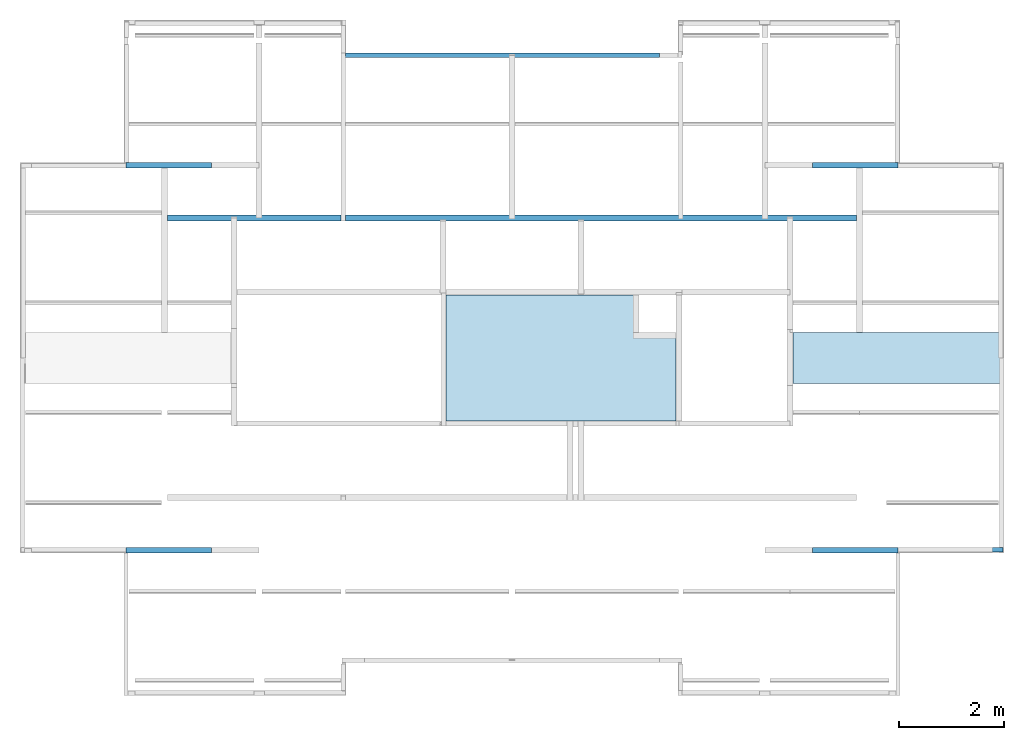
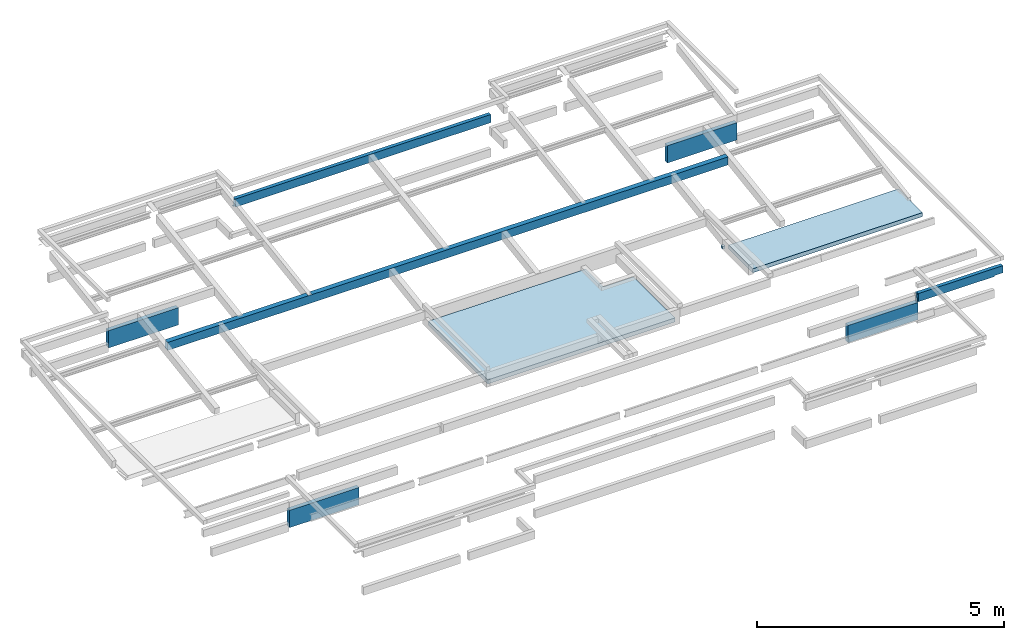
# One storey, part 8 of 9: 4 walls, 3 beams, 2 slabs.
"""IFC4 building model written with IfcOpenShell, lengths in metres."""

from ifc_helpers import new_model, entity, si_unit, converted_unit, derived_unit, direction, frame, origin, place, context, subcontext, project, spatial, indexed_curve, outline, extrude, polygons, source, transform, mapped, material, type_object, type_shapes, element, save


model = new_model("IFC4")

# Units and contexts
model_context = context("Model", 3, precision=1e-05, world=origin(), true_north=direction((6.123031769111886e-17, 1.0)))
body_context = subcontext(model_context, "Body", "Model", "MODEL_VIEW")
ifc_project = project(units=[si_unit("LENGTHUNIT", "METRE"), si_unit("AREAUNIT", "SQUARE_METRE"), si_unit("VOLUMEUNIT", "CUBIC_METRE"), converted_unit("PLANEANGLEUNIT", "DEGREE", entity("IfcRatioMeasure", 0.017453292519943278), si_unit("PLANEANGLEUNIT", "RADIAN"), dimensions=[0, 0, 0, 0, 0, 0, 0]), si_unit("MASSUNIT", "GRAM", prefix="KILO"), derived_unit("MASSDENSITYUNIT", [(si_unit("MASSUNIT", "GRAM", prefix="KILO"), 1), (si_unit("LENGTHUNIT", "METRE"), -3)]), derived_unit("IONCONCENTRATIONUNIT", [(si_unit("MASSUNIT", "GRAM", prefix="KILO"), 1), (si_unit("LENGTHUNIT", "METRE"), -3)]), derived_unit("MOMENTOFINERTIAUNIT", [(si_unit("LENGTHUNIT", "METRE"), 4)]), si_unit("TIMEUNIT", "SECOND"), si_unit("FREQUENCYUNIT", "HERTZ"), si_unit("THERMODYNAMICTEMPERATUREUNIT", "DEGREE_CELSIUS"), derived_unit("THERMALTRANSMITTANCEUNIT", [(si_unit("MASSUNIT", "GRAM", prefix="KILO"), 1), (si_unit("THERMODYNAMICTEMPERATUREUNIT", "KELVIN"), -1), (si_unit("TIMEUNIT", "SECOND"), -3)]), derived_unit("THERMALCONDUCTANCEUNIT", [(si_unit("MASSUNIT", "GRAM", prefix="KILO"), 1), (si_unit("THERMODYNAMICTEMPERATUREUNIT", "KELVIN"), -1), (si_unit("TIMEUNIT", "SECOND"), -3), (si_unit("LENGTHUNIT", "METRE"), 1)]), derived_unit("VOLUMETRICFLOWRATEUNIT", [(si_unit("LENGTHUNIT", "METRE"), 3), (si_unit("TIMEUNIT", "SECOND"), -1)]), derived_unit("MASSFLOWRATEUNIT", [(si_unit("MASSUNIT", "GRAM", prefix="KILO"), 1), (si_unit("TIMEUNIT", "SECOND"), -1)]), derived_unit("ROTATIONALFREQUENCYUNIT", [(si_unit("TIMEUNIT", "SECOND"), -1)]), si_unit("ELECTRICCURRENTUNIT", "AMPERE"), si_unit("ELECTRICVOLTAGEUNIT", "VOLT"), si_unit("POWERUNIT", "WATT"), si_unit("FORCEUNIT", "NEWTON", prefix="KILO"), si_unit("ILLUMINANCEUNIT", "LUX"), si_unit("LUMINOUSFLUXUNIT", "LUMEN"), si_unit("LUMINOUSINTENSITYUNIT", "CANDELA"), derived_unit("USERDEFINED", [(si_unit("MASSUNIT", "GRAM", prefix="KILO"), -1), (si_unit("LENGTHUNIT", "METRE"), -2), (si_unit("TIMEUNIT", "SECOND"), 3), (si_unit("LUMINOUSFLUXUNIT", "LUMEN"), 1)]), derived_unit("USERDEFINED", [(si_unit("MASSUNIT", "GRAM", prefix="KILO"), 1), (si_unit("TIMEUNIT", "SECOND"), -3), (si_unit("LENGTHUNIT", "METRE"), 3), (si_unit("ELECTRICCURRENTUNIT", "AMPERE"), -2)]), derived_unit("SOUNDPOWERUNIT", [(si_unit("MASSUNIT", "GRAM", prefix="KILO"), 1), (si_unit("TIMEUNIT", "SECOND"), -3), (si_unit("LENGTHUNIT", "METRE"), 2)]), derived_unit("SOUNDPRESSUREUNIT", [(si_unit("MASSUNIT", "GRAM", prefix="KILO"), 1), (si_unit("LENGTHUNIT", "METRE"), -1), (si_unit("TIMEUNIT", "SECOND"), -2)]), derived_unit("LINEARVELOCITYUNIT", [(si_unit("LENGTHUNIT", "METRE"), 1), (si_unit("TIMEUNIT", "SECOND"), -1)]), si_unit("PRESSUREUNIT", "PASCAL"), derived_unit("USERDEFINED", [(si_unit("MASSUNIT", "GRAM", prefix="KILO"), 1), (si_unit("LENGTHUNIT", "METRE"), -2), (si_unit("TIMEUNIT", "SECOND"), -2)]), derived_unit("LINEARFORCEUNIT", [(si_unit("MASSUNIT", "GRAM", prefix="KILO"), 1), (si_unit("TIMEUNIT", "SECOND"), -2)]), derived_unit("PLANARFORCEUNIT", [(si_unit("MASSUNIT", "GRAM", prefix="KILO"), 1), (si_unit("LENGTHUNIT", "METRE"), -1), (si_unit("TIMEUNIT", "SECOND"), -2)]), derived_unit("SPECIFICHEATCAPACITYUNIT", [(si_unit("THERMODYNAMICTEMPERATUREUNIT", "KELVIN"), -1), (si_unit("LENGTHUNIT", "METRE"), 2), (si_unit("TIMEUNIT", "SECOND"), -2)]), derived_unit("HEATINGVALUEUNIT", [(si_unit("LENGTHUNIT", "METRE"), 2), (si_unit("TIMEUNIT", "SECOND"), -2)]), derived_unit("VAPORPERMEABILITYUNIT", [(si_unit("LENGTHUNIT", "METRE"), -1), (si_unit("TIMEUNIT", "SECOND"), 1)]), derived_unit("DYNAMICVISCOSITYUNIT", [(si_unit("MASSUNIT", "GRAM", prefix="KILO"), 1), (si_unit("TIMEUNIT", "SECOND"), -1), (si_unit("LENGTHUNIT", "METRE"), -1)]), derived_unit("THERMALEXPANSIONCOEFFICIENTUNIT", [(si_unit("THERMODYNAMICTEMPERATUREUNIT", "KELVIN"), -1)]), derived_unit("MODULUSOFELASTICITYUNIT", [(si_unit("MASSUNIT", "GRAM", prefix="KILO"), 1), (si_unit("LENGTHUNIT", "METRE"), -1), (si_unit("TIMEUNIT", "SECOND"), -2)]), derived_unit("ISOTHERMALMOISTURECAPACITYUNIT", [(si_unit("LENGTHUNIT", "METRE"), 3), (si_unit("MASSUNIT", "GRAM", prefix="KILO"), -1)]), derived_unit("MOISTUREDIFFUSIVITYUNIT", [(si_unit("TIMEUNIT", "SECOND"), -1), (si_unit("LENGTHUNIT", "METRE"), 2)])], contexts=[model_context])

# Site, building, storey
site_placement = place(None, origin())
site = spatial("IfcSite", under=ifc_project, at=site_placement, Name="Default", CompositionType="ELEMENT")
building_placement = place(site_placement, origin())
building = spatial("IfcBuilding", under=site, at=building_placement, Name="Las nubes", CompositionType="ELEMENT")
storey_placement = place(building_placement, frame((0.0, 0.0, 14.100000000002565)))
storey = spatial("IfcBuildingStorey", under=building, at=storey_placement, Name="CUBIERTA", CompositionType="ELEMENT", Elevation=14.100000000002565)

# Beams
ifc_material_1 = material(Name="Concrete, Cast In Situ", Category="Materials")
beam_type_1 = type_object("IfcBeamType", Name="M_Concrete-Rectangular Beam:(0.115x0.20)", PredefinedType="BEAM", material=ifc_material_1)
shared_shape_1 = source(origin(), body_context, "Body", "Tessellation", [
    polygons([(13.109997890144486, 0.11500000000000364, 0.2), (13.109997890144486, -5.414335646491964e-16, 0.19999999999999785), (13.109997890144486, -5.414335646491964e-16, 0.0), (13.109997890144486, 0.11500000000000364, 0.0), (0.0, 0.11500000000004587, 0.2), (0.0, 0.11500000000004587, 0.0), (0.0, 4.2231818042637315e-14, 0.0), (0.0, 4.2231818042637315e-14, 0.19999999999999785), (11.424998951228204, 0.11500000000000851, 0.2), (11.309998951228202, 0.11500000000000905, 0.2), (9.809998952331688, 0.11500000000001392, 0.2), (9.724998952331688, 0.11500000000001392, 0.2), (6.614998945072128, 0.11500000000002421, 0.2), (6.494998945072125, 0.11500000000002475, 0.2), (3.384998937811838, 0.11500000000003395, 0.19999999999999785), (3.384998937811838, 0.0017311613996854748, 0.2), (3.2999989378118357, 0.0017311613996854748, 0.2), (3.2999989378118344, 0.11500000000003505, 0.19999999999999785), (6.494998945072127, 2.1115909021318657e-14, 0.0), (6.614998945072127, 2.1115909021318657e-14, 0.0), (6.494998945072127, 0.11500000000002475, 0.0), (6.614998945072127, 0.11500000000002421, 0.0), (3.2999989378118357, 0.11500000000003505, 0.014937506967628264), (3.384998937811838, 0.11500000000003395, 0.014937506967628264), (3.384998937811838, 0.031372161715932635, 0.0023933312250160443), (3.2999989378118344, 0.031372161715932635, 0.0023933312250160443)], [[[1, 2, 3, 4]], [[5, 6, 7, 8]], [[2, 1, 9, 10, 11, 12, 13, 14, 15, 16, 17, 18, 5, 8]], [[3, 2, 8, 7, 19, 20]], [[4, 3, 20, 19, 7, 6, 21, 22]], [[1, 4, 22, 21, 6, 5, 18, 23, 24, 15, 14, 13, 12, 11, 10, 9]], [[25, 26, 17, 16]], [[17, 26, 23, 18]], [[26, 25, 24, 23]], [[25, 16, 15, 24]]], closed=True),
])
type_shapes(beam_type_1, [shared_shape_1])
beam_1_placement = place(storey_placement, frame((2.7675010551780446, -3.8250000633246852, 0.27619999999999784)))
element("IfcBeam", 1, at=beam_1_placement, inside=storey, type_object=beam_type_1, material=ifc_material_1, Name="M_Concrete-Rectangular Beam:(0.115x0.20)", ObjectType="M_Concrete-Rectangular Beam:(0.115x0.20)", PredefinedType="BEAM", context=body_context, shape_type="MappedRepresentation", body=[
    mapped(shared_shape_1, transform((0.0, 0.0, 0.0), scale=1.0)),
])
beam_type_2 = type_object("IfcBeamType", Name="M_Concrete-Rectangular Beam:(0.085x0.20)", PredefinedType="BEAM", material=ifc_material_1)
shared_shape_2 = source(origin(), body_context, "Body", "Tessellation", [
    polygons([(0.02749999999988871, 0.08500000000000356, 0.2), (0.027499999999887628, 0.02683335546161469, 0.2), (-1.0828671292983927e-15, 0.026833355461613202, 0.2), (-1.0828671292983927e-15, 1.353583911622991e-16, 0.2), (6.002500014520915, 7.850786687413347e-15, 0.2), (6.002500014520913, 0.08500000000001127, 0.2), (-1.0828671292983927e-15, 0.08500000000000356, 0.006487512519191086), (0.027499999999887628, 0.08500000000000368, 0.006487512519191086), (6.002500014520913, 0.08500000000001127, -2.1657342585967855e-15), (-1.0828671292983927e-15, 0.08500000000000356, -2.1657342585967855e-15), (0.02749999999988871, 0.041749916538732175, -2.1657342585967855e-15), (-1.0828671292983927e-15, 0.04174991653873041, -2.1657342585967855e-15), (6.002500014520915, 7.850786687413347e-15, -2.1657342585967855e-15), (0.02749999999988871, 1.353583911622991e-16, -2.1657342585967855e-15), (0.027499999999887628, 1.353583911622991e-16, 0.19597499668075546), (-1.0828671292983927e-15, 1.353583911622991e-16, 0.19597499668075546)], [[[1, 2, 3, 4, 5, 6]], [[7, 8, 1, 6, 9, 10]], [[11, 12, 10, 9, 13, 14]], [[15, 14, 13, 5, 4, 16]], [[2, 15, 16, 3]], [[11, 8, 7, 12]], [[8, 11, 14, 15, 2, 1]], [[7, 10, 12]], [[4, 3, 16]], [[6, 5, 13, 9]]], closed=True),
])
type_shapes(beam_type_2, [shared_shape_2])
beam_2_placement = place(storey_placement, frame((6.124999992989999, -0.71000002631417, 0.7473999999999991)))
element("IfcBeam", 2, at=beam_2_placement, inside=storey, type_object=beam_type_2, material=ifc_material_1, Name="M_Concrete-Rectangular Beam:(0.085x0.20)", ObjectType="M_Concrete-Rectangular Beam:(0.085x0.20)", PredefinedType="BEAM", context=body_context, shape_type="MappedRepresentation", body=[
    mapped(shared_shape_2, transform((0.0, 0.0, 0.0), scale=1.0)),
])
beam_type_3 = type_object("IfcBeamType", Name="M_Concrete-Rectangular Beam:(0.085x0.20)", PredefinedType="BEAM", material=ifc_material_1)
shared_shape_3 = source(origin(), body_context, "Body", "Tessellation", [
    polygons([(2.002499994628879, 0.08500511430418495, 0.19999999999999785), (0.0, 0.08500511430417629, 0.19999999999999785), (0.0, 0.041532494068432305, 0.2), (0.027499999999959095, 0.041532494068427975, 0.2), (0.027499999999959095, 5.114304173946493e-06, 0.2), (2.002499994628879, 5.114304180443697e-06, 0.2), (2.002499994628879, 0.08500511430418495, 0.021700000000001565), (1.8024999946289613, 0.08500511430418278, 0.021700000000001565), (1.8024999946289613, 0.08500511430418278, 0.0), (0.0, 0.08500511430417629, 0.0), (0.0, 5.114304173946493e-06, 0.0), (1.8024999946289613, 5.114304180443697e-06, 0.0), (0.027499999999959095, 5.114304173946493e-06, 0.010586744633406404), (0.0, 5.114304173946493e-06, 0.010586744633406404), (1.8024999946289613, 3.4095361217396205e-06, 0.021700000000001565), (2.002499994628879, 5.114304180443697e-06, 0.021700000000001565), (0.027499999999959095, 0.01283190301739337, 0.008662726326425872), (0.0, 0.012831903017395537, 0.008662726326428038)], [[[1, 2, 3, 4, 5, 6]], [[2, 1, 7, 8, 9, 10]], [[11, 10, 9, 12]], [[6, 5, 13, 14, 11, 12, 15, 16]], [[13, 17, 18, 14]], [[17, 13, 5, 4]], [[18, 17, 4, 3]], [[2, 10, 11, 14, 18, 3]], [[8, 15, 12, 9]], [[1, 6, 16, 7]], [[15, 8, 7, 16]]], closed=True),
])
type_shapes(beam_type_3, [shared_shape_3])
beam_3_placement = place(storey_placement, frame((16.670000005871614, -10.125000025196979, 0.4282999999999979)))
element("IfcBeam", 3, at=beam_3_placement, inside=storey, type_object=beam_type_3, material=ifc_material_1, Name="M_Concrete-Rectangular Beam:(0.085x0.20)", ObjectType="M_Concrete-Rectangular Beam:(0.085x0.20)", PredefinedType="BEAM", context=body_context, shape_type="MappedRepresentation", body=[
    mapped(shared_shape_3, transform((0.0, 0.0, 0.0), scale=1.0)),
])

# Slabs
ifc_material_2 = material(Name="Concrete - Cast-in-Place Concrete - 28 MPa SLAB", Category="Materials")
slab_type = type_object("IfcSlabType", Name="Floor:PLACA ESTRUCTURAL 0.10", PredefinedType="FLOOR", material=ifc_material_2)
slab_1_placement = place(storey_placement, origin())
element("IfcSlab", 4, at=slab_1_placement, inside=storey, type_object=slab_type, material=ifc_material_2, Name="Floor:PLACA ESTRUCTURAL 0.10", ObjectType="Floor:PLACA ESTRUCTURAL 0.10", PredefinedType="FLOOR", context=body_context, shape_type="SweptSolid", body=[
    extrude(outline(indexed_curve([(-1.3600000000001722, -2.6866666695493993), (1.0400000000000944, -2.6866666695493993), (1.040000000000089, 0.9933333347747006), (0.32000000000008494, 0.9933333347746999), (0.32000000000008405, 1.6933333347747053), (-1.3600000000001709, 1.6933333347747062), (-1.3600000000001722, -2.6866666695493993)], self_intersect=False)), frame((10.749166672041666, -6.265000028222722, 0.0), z_axis=(0.0, 0.0, -1.0), x_axis=(0.0, 1.0, 0.0)), (0.0, 0.0, 1.0), 0.09999999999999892),
])
slab_2_placement = place(storey_placement, origin())
element("IfcSlab", 5, at=slab_2_placement, inside=storey, type_object=slab_type, material=ifc_material_2, Name="Floor:PLACA ESTRUCTURAL 0.10", ObjectType="Floor:PLACA ESTRUCTURAL 0.10", PredefinedType="FLOOR", context=body_context, shape_type="SweptSolid", body=[
    extrude(outline(indexed_curve([(-0.48553538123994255, -1.7655555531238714), (-0.1079519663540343, -1.7655555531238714), (0.004283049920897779, -1.7655555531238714), (0.10688120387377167, -1.7655555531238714), (0.4844646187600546, -1.7655555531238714), (0.4844646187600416, 2.2069444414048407), (0.05946461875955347, 2.2069444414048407), (-0.06053538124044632, 2.2069444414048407), (-0.4855353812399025, 2.206944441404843), (-0.48553538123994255, -1.7655555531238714)], self_intersect=False)), frame((16.879444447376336, -6.424464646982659, -0.09999999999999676), z_axis=(0.0, 0.0, 1.0), x_axis=(0.0, 1.0, 0.0)), (0.0, 0.0, 1.0), 0.09999999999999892),
    extrude(outline(indexed_curve([(-0.03460000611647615, -0.03124999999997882), (0.03928750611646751, -0.031249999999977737), (0.02991250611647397, 0.0312499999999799), (-0.03460000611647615, 0.0312499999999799), (-0.03460000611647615, -0.03124999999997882)], self_intersect=False)), frame((14.557500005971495, -5.856250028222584, -0.06539999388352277), z_axis=(1.0, 0.0, 0.0), x_axis=(0.0, 0.0, 1.0)), (0.0, 0.0, 1.0), 0.05749999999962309),
])

# Walls
ifc_material_3 = material(Name="Concrete - Cast-in-Place Concrete - 35 MPa", Category="Materials")
wall_type = type_object("IfcWallType", Name="Basic Wall:MURO 10cm", PredefinedType="STANDARD")
wall_1_placement = place(storey_placement, frame((1.9749999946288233, -10.090000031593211, 0.0)))
element("IfcWall", 6, at=wall_1_placement, inside=storey, type_object=wall_type, material=ifc_material_3, Name="Basic Wall:MURO 10cm", ObjectType="Basic Wall:MURO 10cm", PredefinedType="NOTDEFINED", context=body_context, shape_type="SweptSolid", body=[
    extrude(outline(indexed_curve([(1.627499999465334, 0.05000000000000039), (1.0913131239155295e-16, 0.04999999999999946), (-1.0913131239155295e-16, -0.04999999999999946), (1.627499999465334, -0.04999999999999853), (1.627499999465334, 0.05000000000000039)], self_intersect=False)), origin(), (0.0, 0.0, 1.0), 0.4283999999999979),
])
wall_2_placement = place(storey_placement, frame((1.9749999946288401, -2.760000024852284, 0.0)))
element("IfcWall", 7, at=wall_2_placement, inside=storey, type_object=wall_type, material=ifc_material_3, Name="Basic Wall:MURO 10cm", ObjectType="Basic Wall:MURO 10cm", PredefinedType="NOTDEFINED", context=body_context, shape_type="SweptSolid", body=[
    extrude(outline(indexed_curve([(1.6274999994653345, 0.05000000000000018), (-7.190214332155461e-17, 0.05), (7.190214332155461e-17, -0.05), (1.6274999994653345, -0.04999999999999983), (1.6274999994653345, 0.05000000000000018)], self_intersect=False)), origin(), (0.0, 0.0, 1.0), 0.4283999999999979),
])
wall_3_placement = place(storey_placement, frame((16.670000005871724, -2.760000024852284, 0.0), z_axis=(0.0, 0.0, 1.0), x_axis=(-1.0, 0.0, 0.0)))
element("IfcWall", 8, at=wall_3_placement, inside=storey, type_object=wall_type, material=ifc_material_3, Name="Basic Wall:MURO 10cm", ObjectType="Basic Wall:MURO 10cm", PredefinedType="NOTDEFINED", context=body_context, shape_type="SweptSolid", body=[
    extrude(outline(indexed_curve([(1.6274999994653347, 0.04999999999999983), (7.190214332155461e-17, 0.05), (-7.190214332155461e-17, -0.05), (1.6274999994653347, -0.05000000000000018), (1.6274999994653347, 0.04999999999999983)], self_intersect=False)), origin(), (0.0, 0.0, 1.0), 0.4283999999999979),
])
wall_4_placement = place(storey_placement, frame((16.67000000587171, -10.090000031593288, 0.0), z_axis=(0.0, 0.0, 1.0), x_axis=(-1.0, 0.0, 0.0)))
element("IfcWall", 9, at=wall_4_placement, inside=storey, type_object=wall_type, material=ifc_material_3, Name="Basic Wall:MURO 10cm", ObjectType="Basic Wall:MURO 10cm", PredefinedType="NOTDEFINED", context=body_context, shape_type="SweptSolid", body=[
    extrude(outline(indexed_curve([(1.6274999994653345, 0.05000000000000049), (-2.9749946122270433e-16, 0.04999999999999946), (2.9749946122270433e-16, -0.04999999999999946), (1.627499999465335, -0.04999999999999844), (1.6274999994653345, 0.05000000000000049)], self_intersect=False)), origin(), (0.0, 0.0, 1.0), 0.4283999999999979),
])

save(model, "model.ifc")
